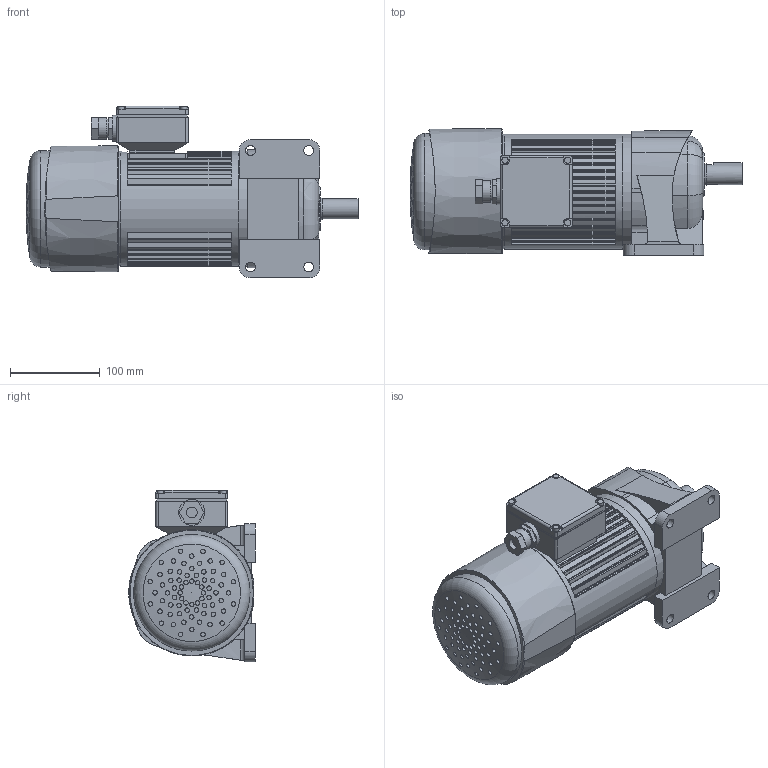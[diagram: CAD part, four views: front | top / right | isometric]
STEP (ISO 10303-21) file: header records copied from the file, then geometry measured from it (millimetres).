
FILE_DESCRIPTION( ( 'STEP AP203' ), ' ' );
FILE_NAME( 'p:/temp/worker_2024/3108_1980/app_48_02016063013363926723084192d056f_000000_00_00_000000/format_0/G3LV-22-5-T040E.stp', '2016-06-30T11:36:42', ( '' ), ( '' ), ' ', 'PARTsolutions', ' ' );
FILE_SCHEMA( ( 'CONFIG_CONTROL_DESIGN' ) );
Length unit declared in the file: millimetre
Products named in the file (7): G3LV-22-5-T040E; _GL22; _SP022C; HI_T040; HI_040V; _E-BOX(aluminum)(T040); _KEY1-22
Assembly tree (6 placements, depth 2):
  G3LV-22-5-T040E
    _GL22
    _SP022C
    HI_T040
    HI_040V
    _E-BOX(aluminum)(T040)
    _KEY1-22
Bounding box: 370.5 x 141.49 x 191.5 mm (x, y, z)
Volume: 4728466.8 mm3; surface area: 414621.8 mm2
Topology: 6 solids, 6 shells, 671 faces, 1686 edges, 1138 vertices
Faces by surface type: plane 346, cylinder 308, torus 13, bspline 2, sphere 1, cone 1
Full cylindrical faces by diameter (mm): 5 x72, 7 x4, 11 x4, 12 x1, 21 x1, 22 x1, 24 x2, 29 x1, 128 x3, 130 x1
Entity records: 24454 total; most frequent: CARTESIAN_POINT 8600, DIRECTION 3366, ORIENTED_EDGE 3016, EDGE_CURVE 1508, AXIS2_PLACEMENT_3D 1308, VERTEX_POINT 1058, EDGE_LOOP 886, FACE_OUTER_BOUND 763
